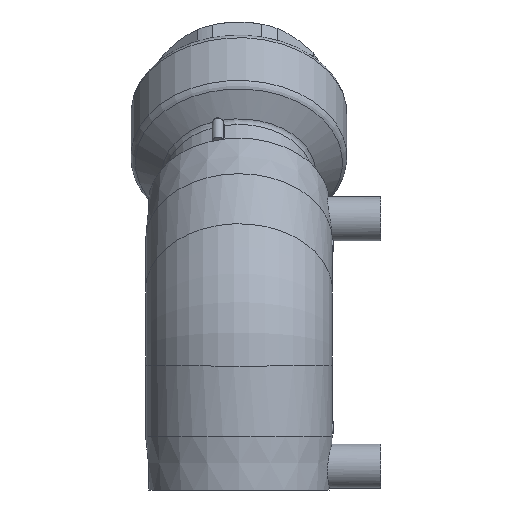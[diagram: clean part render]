
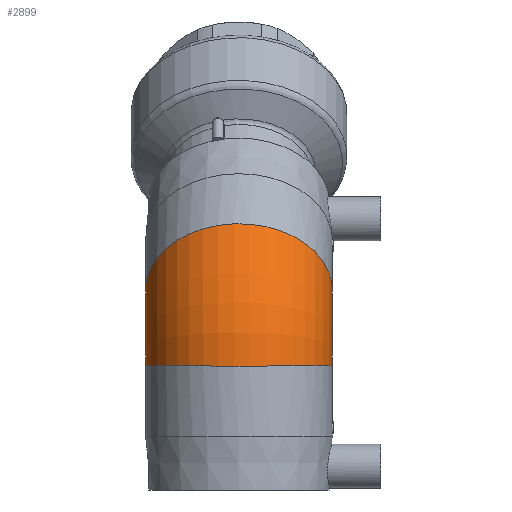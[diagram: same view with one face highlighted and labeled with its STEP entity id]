
A CAD part, left-side view. The second image highlights one B-rep face of the part: STEP entity #2899.
In plain terms, the highlighted toroidal (fillet/blend) face has major radius 35.5 mm and minor radius 31.5 mm.
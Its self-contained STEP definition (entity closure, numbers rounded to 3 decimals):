
#369=TOROIDAL_SURFACE('',#3654,35.5,31.5);
#407=B_SPLINE_CURVE_WITH_KNOTS('',3,(#5015,#5016,#5017,#5018,#5019,#5020,
#5021,#5022,#5023,#5024,#5025,#5026,#5027,#5028,#5029,#5030,#5031,#5032,
#5033,#5034,#5035,#5036,#5037,#5038,#5039,#5040,#5041),.UNSPECIFIED.,.F.,
 .F.,(4,1,1,1,1,1,1,1,1,1,1,1,1,1,1,1,1,1,1,1,1,1,1,1,4),(0.,
0.003,0.006,0.012,0.018,
0.021,0.024,0.027,0.03,
0.034,0.037,0.04,0.043,
0.049,0.055,0.061,0.064,
0.068,0.074,0.08,0.086,
0.089,0.092,0.095,0.098),
 .UNSPECIFIED.);
#409=B_SPLINE_CURVE_WITH_KNOTS('',3,(#5064,#5065,#5066,#5067,#5068,#5069,
#5070,#5071,#5072,#5073,#5074,#5075,#5076,#5077,#5078,#5079,#5080,#5081,
#5082,#5083,#5084,#5085,#5086,#5087,#5088,#5089),.UNSPECIFIED.,.F.,.F.,
(4,1,1,1,1,1,1,1,1,1,1,1,1,1,1,1,1,1,1,1,1,1,1,4),(0.,
0.003,0.006,0.012,0.018,
0.021,0.024,0.027,0.03,
0.034,0.037,0.04,0.043,
0.049,0.055,0.061,0.064,
0.068,0.071,0.074,0.08,
0.086,0.092,0.098),.UNSPECIFIED.);
#560=ORIENTED_EDGE('',*,*,#1344,.F.);
#561=ORIENTED_EDGE('',*,*,#1355,.F.);
#562=ORIENTED_EDGE('',*,*,#1354,.F.);
#563=ORIENTED_EDGE('',*,*,#1349,.T.);
#564=ORIENTED_EDGE('',*,*,#1357,.T.);
#565=ORIENTED_EDGE('',*,*,#1356,.T.);
#1344=EDGE_CURVE('',#1755,#1754,#407,.T.);
#1349=EDGE_CURVE('',#1760,#1759,#409,.T.);
#1354=EDGE_CURVE('',#1760,#1765,#2046,.T.);
#1355=EDGE_CURVE('',#1765,#1755,#2047,.T.);
#1356=EDGE_CURVE('',#1766,#1754,#2048,.T.);
#1357=EDGE_CURVE('',#1759,#1766,#2049,.T.);
#1754=VERTEX_POINT('',#5013);
#1755=VERTEX_POINT('',#5014);
#1759=VERTEX_POINT('',#5062);
#1760=VERTEX_POINT('',#5063);
#1765=VERTEX_POINT('',#5330);
#1766=VERTEX_POINT('',#5333);
#2046=CIRCLE('',#3647,35.5);
#2047=CIRCLE('',#3648,35.5);
#2048=CIRCLE('',#3649,35.5);
#2049=CIRCLE('',#3650,35.5);
#2261=EDGE_LOOP('',(#560,#561,#562,#563,#564,#565));
#2534=FACE_BOUND('',#2261,.T.);
#2899=ADVANCED_FACE('',(#2534),#369,.T.);
#3647=AXIS2_PLACEMENT_3D('',#5329,#4062,#4063);
#3648=AXIS2_PLACEMENT_3D('',#5331,#4064,#4065);
#3649=AXIS2_PLACEMENT_3D('',#5332,#4066,#4067);
#3650=AXIS2_PLACEMENT_3D('',#5334,#4068,#4069);
#3654=AXIS2_PLACEMENT_3D('',#5391,#4076,#4077);
#4062=DIRECTION('',(0.,1.,0.));
#4063=DIRECTION('',(-1.,0.,-0.008));
#4064=DIRECTION('',(0.,1.,0.));
#4065=DIRECTION('',(-1.,0.,-0.008));
#4066=DIRECTION('',(0.,1.,0.));
#4067=DIRECTION('',(-1.,0.,-0.008));
#4068=DIRECTION('',(0.,1.,0.));
#4069=DIRECTION('',(-1.,0.,-0.008));
#4076=DIRECTION('',(0.,1.,0.));
#4077=DIRECTION('',(0.,0.,1.));
#5013=CARTESIAN_POINT('',(10.607,-31.5,10.607));
#5014=CARTESIAN_POINT('',(10.607,31.5,10.607));
#5015=CARTESIAN_POINT('',(10.607,31.5,10.607));
#5016=CARTESIAN_POINT('',(9.882,31.5,11.337));
#5017=CARTESIAN_POINT('',(8.417,31.397,12.815));
#5018=CARTESIAN_POINT('',(5.555,30.794,15.699));
#5019=CARTESIAN_POINT('',(2.031,29.271,19.249));
#5020=CARTESIAN_POINT('',(-1.149,26.857,22.451));
#5021=CARTESIAN_POINT('',(-3.509,24.373,24.827));
#5022=CARTESIAN_POINT('',(-5.117,22.3,26.446));
#5023=CARTESIAN_POINT('',(-6.572,20.022,27.911));
#5024=CARTESIAN_POINT('',(-7.88,17.522,29.227));
#5025=CARTESIAN_POINT('',(-9.004,14.858,30.358));
#5026=CARTESIAN_POINT('',(-9.93,12.079,31.289));
#5027=CARTESIAN_POINT('',(-10.665,9.173,32.029));
#5028=CARTESIAN_POINT('',(-11.377,5.13,32.746));
#5029=CARTESIAN_POINT('',(-11.732,0.041,33.102));
#5030=CARTESIAN_POINT('',(-11.301,-6.219,32.669));
#5031=CARTESIAN_POINT('',(-10.235,-11.165,31.596));
#5032=CARTESIAN_POINT('',(-8.999,-14.874,30.352));
#5033=CARTESIAN_POINT('',(-7.485,-18.45,28.829));
#5034=CARTESIAN_POINT('',(-5.195,-22.406,26.524));
#5035=CARTESIAN_POINT('',(-1.778,-26.382,23.084));
#5036=CARTESIAN_POINT('',(1.404,-28.794,19.88));
#5037=CARTESIAN_POINT('',(4.17,-30.199,17.094));
#5038=CARTESIAN_POINT('',(6.277,-30.945,14.971));
#5039=CARTESIAN_POINT('',(8.418,-31.397,12.813));
#5040=CARTESIAN_POINT('',(9.882,-31.5,11.337));
#5041=CARTESIAN_POINT('',(10.607,-31.5,10.607));
#5062=CARTESIAN_POINT('',(0.,-31.5,-15.));
#5063=CARTESIAN_POINT('',(0.,31.5,-15.));
#5064=CARTESIAN_POINT('',(0.,31.5,-15.));
#5065=CARTESIAN_POINT('',(-1.029,31.5,-15.004));
#5066=CARTESIAN_POINT('',(-3.11,31.397,-15.013));
#5067=CARTESIAN_POINT('',(-7.173,30.794,-15.029));
#5068=CARTESIAN_POINT('',(-12.176,29.271,-15.047));
#5069=CARTESIAN_POINT('',(-16.688,26.856,-15.063));
#5070=CARTESIAN_POINT('',(-20.037,24.372,-15.074));
#5071=CARTESIAN_POINT('',(-22.319,22.299,-15.082));
#5072=CARTESIAN_POINT('',(-24.384,20.022,-15.088));
#5073=CARTESIAN_POINT('',(-26.239,17.522,-15.094));
#5074=CARTESIAN_POINT('',(-27.833,14.858,-15.099));
#5075=CARTESIAN_POINT('',(-29.146,12.078,-15.103));
#5076=CARTESIAN_POINT('',(-30.189,9.172,-15.107));
#5077=CARTESIAN_POINT('',(-31.2,5.129,-15.11));
#5078=CARTESIAN_POINT('',(-31.703,0.035,-15.111));
#5079=CARTESIAN_POINT('',(-31.09,-6.202,-15.109));
#5080=CARTESIAN_POINT('',(-29.603,-11.109,-15.105));
#5081=CARTESIAN_POINT('',(-27.824,-14.877,-15.099));
#5082=CARTESIAN_POINT('',(-26.241,-17.515,-15.094));
#5083=CARTESIAN_POINT('',(-24.412,-19.989,-15.089));
#5084=CARTESIAN_POINT('',(-21.614,-23.078,-15.079));
#5085=CARTESIAN_POINT('',(-17.655,-26.333,-15.066));
#5086=CARTESIAN_POINT('',(-12.128,-29.291,-15.047));
#5087=CARTESIAN_POINT('',(-6.252,-31.081,-15.025));
#5088=CARTESIAN_POINT('',(-2.059,-31.5,-15.009));
#5089=CARTESIAN_POINT('',(0.,-31.5,-15.));
#5329=CARTESIAN_POINT('',(35.499,31.5,-14.704));
#5330=CARTESIAN_POINT('',(-0.001,31.5,-14.512));
#5331=CARTESIAN_POINT('',(35.499,31.5,-14.704));
#5332=CARTESIAN_POINT('',(35.499,-31.5,-14.704));
#5333=CARTESIAN_POINT('',(-0.001,-31.5,-14.512));
#5334=CARTESIAN_POINT('',(35.499,-31.5,-14.704));
#5391=CARTESIAN_POINT('',(35.499,0.,-14.704));
